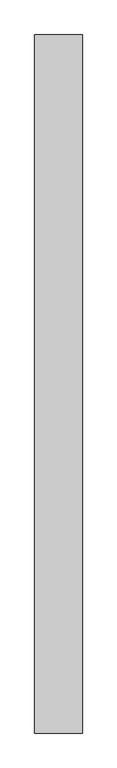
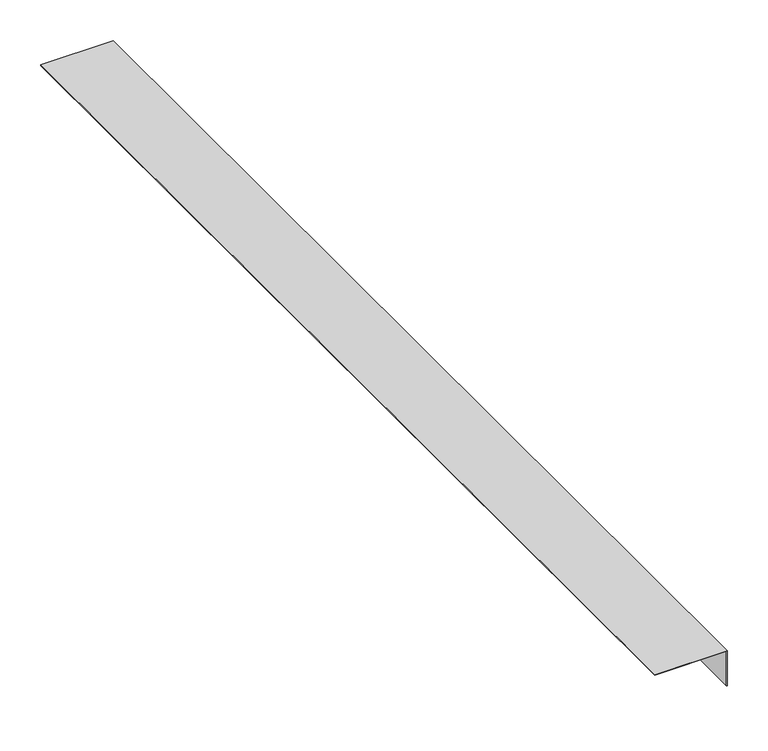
"""IFC4 building model written with IfcOpenShell, lengths in millimetres: proxy geometry, Amphibia Pressure Corner 90°1 : Amphibia Pressure Corner 90°."""

from ifc_helpers import new_model, si_unit, frame, origin, place, context, project, spatial, polyline, outline, extrude, source, transform, mapped, element, save


def generic_models_e66ac73d(model_context):
    return source(origin(), model_context, "Body", "SweptSolid", [
        extrude(outline(polyline([(1.1142542, 2399.3295895), (0.1142542, 2399.3295895), (0.1142542, 2500.671058), (-51.223798, 2500.671058), (-51.223798, 2501.671058), (1.1142542, 2501.671058), (1.1142542, 2399.3295895)])), frame((0.0, -1354.1299805, 0.0), z_axis=(0.0, 1.0, 0.0), x_axis=(0.0, 0.0, 1.0)), (0.0, 0.0, 1.0), 1500.0),
    ])


if __name__ == "__main__":
    model = new_model("IFC4")
    model_context = context("Model", 3, world=origin())
    ifc_project = project(units=[si_unit("LENGTHUNIT", "METRE", prefix="MILLI")], contexts=[model_context])
    site = spatial("IfcSite", under=ifc_project)
    building = spatial("IfcBuilding", under=site)
    placement = place(None, origin())
    generic_models_shape = generic_models_e66ac73d(model_context)
    element("IfcBuildingElementProxy", 1, Name="Amphibia Pressure Corner 90°1 : Amphibia Pressure Corner 90°", ObjectType="Amphibia Pressure Corner 90°1 : Amphibia Pressure Corner 90°", at=placement, inside=building, context=model_context, shape_type="MappedRepresentation", body=[
        mapped(generic_models_shape, transform((0.0, 0.0, 0.0), x_axis=(1.0, 0.0, 0.0), y_axis=(0.0, 1.0, 0.0), z_axis=(0.0, 0.0, 1.0))),
    ])
    save(model, "model.ifc")
